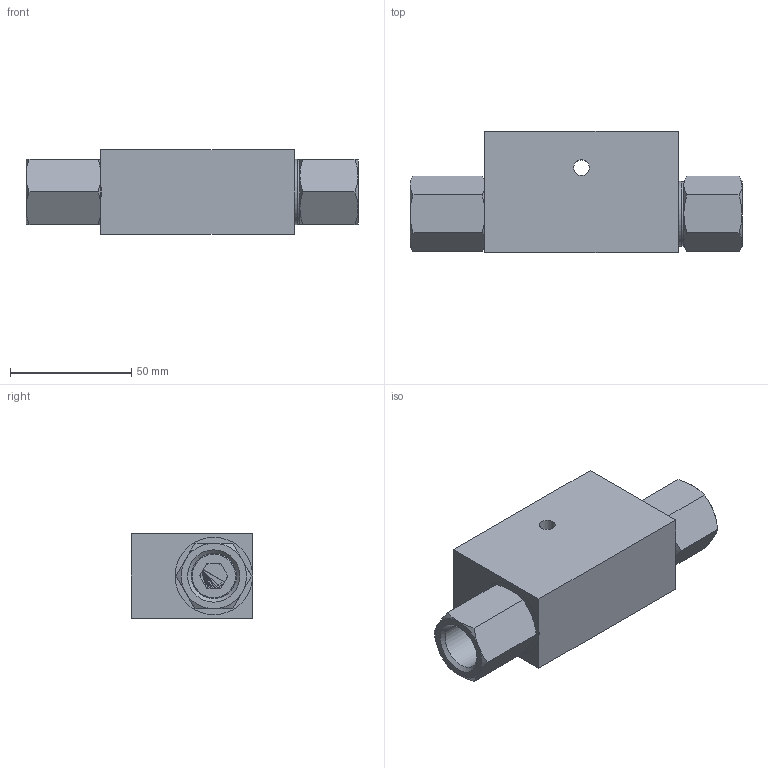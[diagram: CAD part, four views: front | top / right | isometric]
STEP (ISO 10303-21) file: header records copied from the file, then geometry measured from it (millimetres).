
FILE_DESCRIPTION(/* description */ (''),/* implementation_level */ '2;1');
FILE_NAME(/* name */ 'C:\Users\fabio.radici.LUEN\Desktop\003-028-AJ0-A_Shrinkwrap.stp',/* time_stamp */ '2020-10-09T14:20:02+02:00',/* author */ ('Fabio.Radici'),/* organization */ (''),/* preprocessor_version */ 'ST-DEVELOPER v18',/* originating_system */ 'Autodesk Inventor 2020',/* authorisation */ '');
FILE_SCHEMA (('AUTOMOTIVE_DESIGN { 1 0 10303 214 3 1 1 }'));
Length unit declared in the file: millimetre
Products named in the file (1): 003-028-AJ0-A_Shrinkwrap
Bounding box: 137.1 x 50 x 35 mm (x, y, z)
Surface area: 34284 mm2 (no closed solid volume)
Topology: 0 solids, 13 shells, 93 faces, 266 edges, 178 vertices
Faces by surface type: cone 38, plane 29, cylinder 24, bspline 2
Full cylindrical faces by diameter (mm): 5 x4, 6.5 x1, 7 x1, 8 x4, 15 x1, 18.631 x4, 22 x1, 22.376 x1, 26.5 x1, 27 x1, 30 x3
Entity records: 5354 total; most frequent: CARTESIAN_POINT 2871, DIRECTION 471, ORIENTED_EDGE 469, EDGE_CURVE 265, AXIS2_PLACEMENT_3D 200, VERTEX_POINT 178, EDGE_LOOP 110, CIRCLE 106
